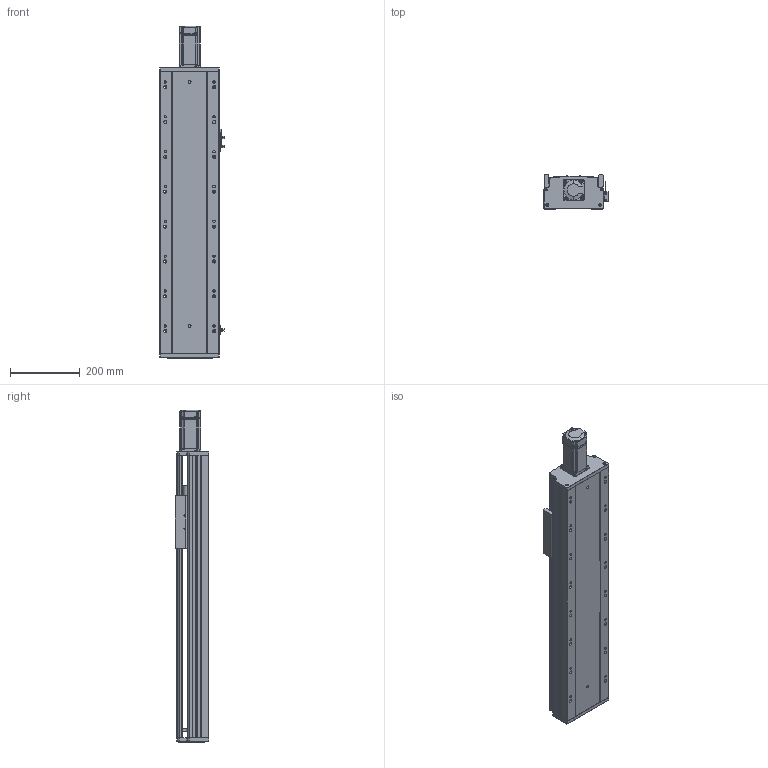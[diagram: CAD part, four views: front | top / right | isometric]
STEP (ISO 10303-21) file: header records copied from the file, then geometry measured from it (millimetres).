
FILE_DESCRIPTION (( 'STEP AP203' ), '1' );
FILE_NAME ('RY170-L2020-300-MK.SLDASM_500.step', '2021-02-20T03:50:40', ( '盈信电脑' ), ( '东莞市道滘镇水果街19号' ), 'SwSTEP 2.0', 'SolidWorks 2012', '' );
FILE_SCHEMA (( 'CONFIG_CONTROL_DESIGN' ));
Length unit declared in the file: millimetre
Products named in the file (12): RY170-L2020-300-MK.SLDASM_500; 滅袉蝶18-10; RY170ヶ醱裔啣; 滅袉蝶18-28; RY170外置感应片(200共用）; 覜茼ん672; RY170綴裔啣; 侂狟400W侜督萇儂; 15; RY170臏賑輸20佪裝蹟譫; RY170-300倰第裔啣-MK_500; RY170-300倰第菁釱-MK_500
Assembly tree (13 placements, depth 3):
  RY170-L2020-300-MK.SLDASM_500
    RY170-300倰第菁釱-MK_500
    RY170-300倰第裔啣-MK_500
    RY170臏賑輸20佪裝蹟譫
    侂狟400W侜督萇儂
      15
    RY170綴裔啣
    覜茼ん672  x3
    RY170外置感应片(200共用）
    RY170ヶ醱裔啣
    滅袉蝶18-28
    滅袉蝶18-10
Bounding box: 183.7 x 97 x 952.5 mm (x, y, z)
Volume: 4616196.3 mm3; surface area: 1435890.7 mm2
Topology: 12 solids, 12 shells, 2124 faces, 6108 edges, 3960 vertices
Faces by surface type: plane 1166, cylinder 774, cone 155, bspline 29
Entity records: 67801 total; most frequent: CARTESIAN_POINT 15143, ORIENTED_EDGE 11044, DIRECTION 10401, EDGE_CURVE 5522, VERTEX_POINT 3640, LINE 3553, VECTOR 3553, AXIS2_PLACEMENT_3D 3424
